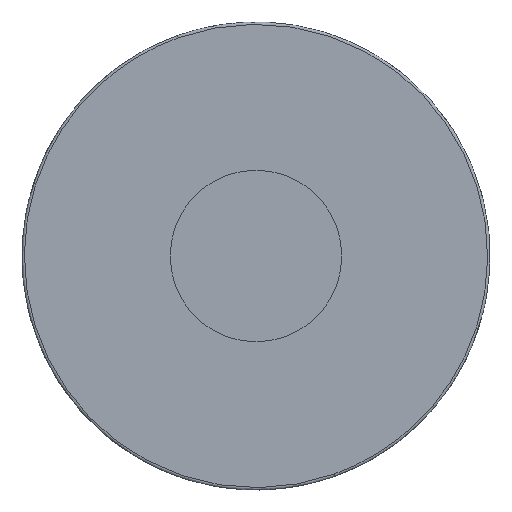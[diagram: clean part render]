
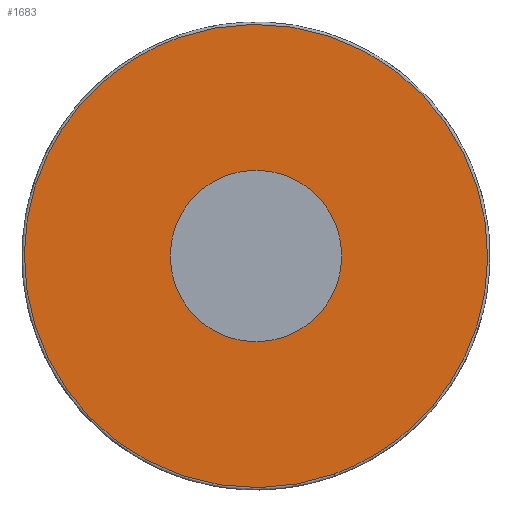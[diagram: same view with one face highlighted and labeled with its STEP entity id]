
A CAD part, left-side view. The second image highlights one B-rep face of the part: STEP entity #1683.
In plain terms, the highlighted free-form (B-spline) face has degree [1, 1] with [2, 2] control points.
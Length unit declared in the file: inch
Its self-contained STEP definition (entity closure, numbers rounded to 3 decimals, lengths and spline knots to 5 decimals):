
#1075 = CARTESIAN_POINT ( 'NONE',  ( 2.62704, -4.03642, 7.02317 ) ) ;
#1403 = CARTESIAN_POINT ( 'NONE',  ( 2.62704, 12.52745, 1.045 ) ) ;
#1509 = FACE_BOUND ( 'NONE', #11097, .T. ) ;
#1683 = ADVANCED_FACE ( 'NONE', ( #1509, #28076 ), #18294, .F. ) ;
#2367 = CARTESIAN_POINT ( 'NONE',  ( 2.62704, -0.18526, 0.20528 ) ) ;
#3416 = CARTESIAN_POINT ( 'NONE',  ( 2.62704, 3.13719, -8.09602 ) ) ;
#4257 = ORIENTED_EDGE ( 'NONE', *, *, #16338, .F. ) ;
#4399 = VERTEX_POINT ( 'NONE', #19637 ) ;
#4519 = CARTESIAN_POINT ( 'NONE',  ( 2.62704, -0.18526, 0.20528 ) ) ;
#5208 = ORIENTED_EDGE ( 'NONE', *, *, #14917, .F. ) ;
#10304 = CARTESIAN_POINT ( 'NONE',  ( 2.62704, 1.51323, 4.97069 ) ) ;
#10887 = VERTEX_POINT ( 'NONE', #4519 ) ;
#11097 = EDGE_LOOP ( 'NONE', ( #4257, #5208 ) ) ;
#12311 = VERTEX_POINT ( 'NONE', #28905 ) ;
#12321 = CARTESIAN_POINT ( 'NONE',  ( 2.62704, 0.24922, 0.05042 ) ) ;
#12499 = CARTESIAN_POINT ( 'NONE',  ( 2.62704, -2.41246, -6.04354 ) ) ;
#12610 = CARTESIAN_POINT ( 'NONE',  ( 2.62704, -0.18526, 0.20528 ) ) ;
#12956 = EDGE_CURVE ( 'NONE', #20705, #4399, #23827, .T. ) ;
#13078 =( BOUNDED_CURVE ( )  B_SPLINE_CURVE ( 3, ( #24821, #19880, #22209, #2367 ),
 .UNSPECIFIED., .F., .F. ) 
 B_SPLINE_CURVE_WITH_KNOTS ( ( 4, 4 ),
 ( -3.14159, 0. ),
 .UNSPECIFIED. ) 
 CURVE ( )  GEOMETRIC_REPRESENTATION_ITEM ( )  RATIONAL_B_SPLINE_CURVE ( ( 1., 0.333, 0.333, 1. ) ) 
 REPRESENTATION_ITEM ( '' )  );
#13321 = CARTESIAN_POINT ( 'NONE',  ( 2.62704, -2.41246, -6.04354 ) ) ;
#14712 = EDGE_CURVE ( 'NONE', #4399, #20705, #19923, .T. ) ;
#14917 = EDGE_CURVE ( 'NONE', #12311, #10887, #13078, .T. ) ;
#15182 = ORIENTED_EDGE ( 'NONE', *, *, #12956, .F. ) ;
#15993 =( BOUNDED_CURVE ( )  B_SPLINE_CURVE ( 3, ( #12610, #12321, #27791, #25585, #23110, #19173, #28079 ),
 .UNSPECIFIED., .F., .F. ) 
 B_SPLINE_CURVE_WITH_KNOTS ( ( 4, 3, 4 ),
 ( -3.14159, -1.5708, 0. ),
 .UNSPECIFIED. ) 
 CURVE ( )  GEOMETRIC_REPRESENTATION_ITEM ( )  RATIONAL_B_SPLINE_CURVE ( ( 1., 0.805, 0.805, 1., 0.805, 0.805, 1. ) ) 
 REPRESENTATION_ITEM ( '' )  );
#16338 = EDGE_CURVE ( 'NONE', #10887, #12311, #15993, .T. ) ;
#18294 = B_SPLINE_SURFACE_WITH_KNOTS ( 'NONE', 1, 1, ( 
 ( #1075, #27788 ),
 ( #19028, #3416 ) ),
 .UNSPECIFIED., .F., .F., .F.,
 ( 2, 2 ),
 ( 2, 2 ),
 ( 0., 1. ),
 ( 0., 1. ),
 .UNSPECIFIED. ) ;
#19028 = CARTESIAN_POINT ( 'NONE',  ( 2.62704, -8.00921, -4.12322 ) ) ;
#19173 = CARTESIAN_POINT ( 'NONE',  ( 2.62704, -0.27949, -1.43298 ) ) ;
#19637 = CARTESIAN_POINT ( 'NONE',  ( 2.62704, 1.51323, 4.97069 ) ) ;
#19880 = CARTESIAN_POINT ( 'NONE',  ( 2.62704, -2.19737, -0.74941 ) ) ;
#19923 =( BOUNDED_CURVE ( )  B_SPLINE_CURVE ( 3, ( #21780, #26308, #22636, #13321 ),
 .UNSPECIFIED., .F., .F. ) 
 B_SPLINE_CURVE_WITH_KNOTS ( ( 4, 4 ),
 ( 0., 3.14159 ),
 .UNSPECIFIED. ) 
 CURVE ( )  GEOMETRIC_REPRESENTATION_ITEM ( )  RATIONAL_B_SPLINE_CURVE ( ( 0.957, 0.319, 0.319, 0.957 ) ) 
 REPRESENTATION_ITEM ( '' )  );
#20705 = VERTEX_POINT ( 'NONE', #26311 ) ;
#20854 = EDGE_LOOP ( 'NONE', ( #15182, #23354 ) ) ;
#21396 = CARTESIAN_POINT ( 'NONE',  ( 2.62704, 8.60177, -9.96922 ) ) ;
#21780 = CARTESIAN_POINT ( 'NONE',  ( 2.62704, 1.51323, 4.97069 ) ) ;
#22209 = CARTESIAN_POINT ( 'NONE',  ( 2.62704, -1.66866, 0.73399 ) ) ;
#22636 = CARTESIAN_POINT ( 'NONE',  ( 2.62704, -13.42669, -2.11785 ) ) ;
#23110 = CARTESIAN_POINT ( 'NONE',  ( 2.62704, 0.13723, -1.23526 ) ) ;
#23354 = ORIENTED_EDGE ( 'NONE', *, *, #14712, .F. ) ;
#23827 =( BOUNDED_CURVE ( )  B_SPLINE_CURVE ( 3, ( #12499, #21396, #1403, #10304 ),
 .UNSPECIFIED., .F., .F. ) 
 B_SPLINE_CURVE_WITH_KNOTS ( ( 4, 4 ),
 ( 0., 3.14159 ),
 .UNSPECIFIED. ) 
 CURVE ( )  GEOMETRIC_REPRESENTATION_ITEM ( )  RATIONAL_B_SPLINE_CURVE ( ( 0.957, 0.319, 0.319, 0.957 ) ) 
 REPRESENTATION_ITEM ( '' )  );
#24821 = CARTESIAN_POINT ( 'NONE',  ( 2.62704, -0.71397, -1.27812 ) ) ;
#25585 = CARTESIAN_POINT ( 'NONE',  ( 2.62704, 0.29208, -0.80078 ) ) ;
#26308 = CARTESIAN_POINT ( 'NONE',  ( 2.62704, -9.501, 8.89638 ) ) ;
#26311 = CARTESIAN_POINT ( 'NONE',  ( 2.62704, -2.41246, -6.04354 ) ) ;
#27788 = CARTESIAN_POINT ( 'NONE',  ( 2.62704, 7.10998, 3.05038 ) ) ;
#27791 = CARTESIAN_POINT ( 'NONE',  ( 2.62704, 0.44694, -0.3663 ) ) ;
#28076 = FACE_OUTER_BOUND ( 'NONE', #20854, .T. ) ;
#28079 = CARTESIAN_POINT ( 'NONE',  ( 2.62704, -0.71397, -1.27812 ) ) ;
#28905 = CARTESIAN_POINT ( 'NONE',  ( 2.62704, -0.71397, -1.27812 ) ) ;
